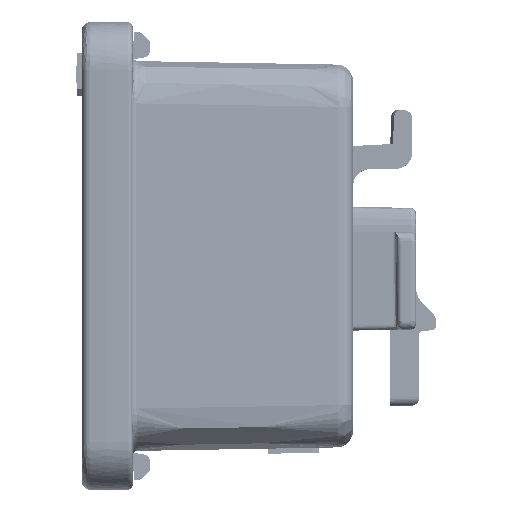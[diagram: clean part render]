
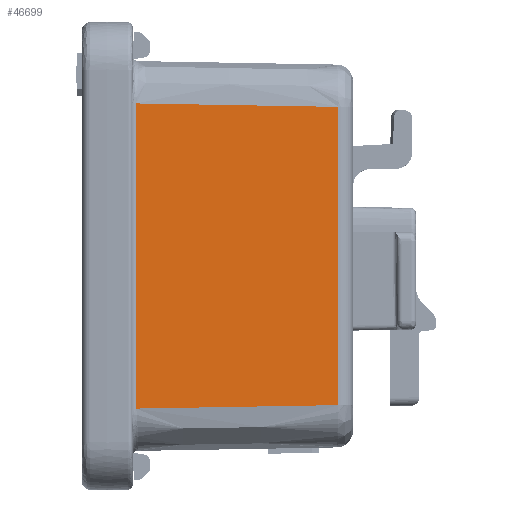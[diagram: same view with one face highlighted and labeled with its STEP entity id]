
A CAD part, left-side view. The second image highlights one B-rep face of the part: STEP entity #46699.
In plain terms, the highlighted cylindrical face has radius 111.316 mm (diameter 222.632 mm), a partial arc.
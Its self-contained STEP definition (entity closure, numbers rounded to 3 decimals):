
#642 = VERTEX_POINT ( 'NONE', #111689 ) ;
#3537 = LINE ( 'NONE', #49449, #103096 ) ;
#6310 = CARTESIAN_POINT ( 'NONE',  ( -53.774, 0.86, 8.794 ) ) ;
#9015 = VECTOR ( 'NONE', #23895, 1000. ) ;
#9839 = CARTESIAN_POINT ( 'NONE',  ( -54.332, 4.811, 8.862 ) ) ;
#16912 = EDGE_CURVE ( 'NONE', #642, #46137, #33267, .T. ) ;
#22197 = CARTESIAN_POINT ( 'NONE',  ( -54.677, 8.791, -8.929 ) ) ;
#23895 = DIRECTION ( 'NONE',  ( 0., 0., 1. ) ) ;
#24444 = FACE_OUTER_BOUND ( 'NONE', #60674, .T. ) ;
#24757 = VERTEX_POINT ( 'NONE', #6310 ) ;
#33267 = LINE ( 'NONE', #95382, #9015 ) ;
#33677 = DIRECTION ( 'NONE',  ( 1., 0., 0. ) ) ;
#38096 = ORIENTED_EDGE ( 'NONE', *, *, #89710, .T. ) ;
#39564 = CARTESIAN_POINT ( 'NONE',  ( -53.774, 0.86, -8.794 ) ) ;
#40533 = CARTESIAN_POINT ( 'NONE',  ( -54.807, 12.778, -8.997 ) ) ;
#46137 = VERTEX_POINT ( 'NONE', #59590 ) ;
#46699 = ADVANCED_FACE ( 'NONE', ( #24444 ), #108375, .T. ) ;
#47307 = B_SPLINE_CURVE_WITH_KNOTS ( 'NONE', 3,
 ( #40533, #22197, #68259, #86501 ),
 .UNSPECIFIED., .F., .F.,
 ( 4, 4 ),
 ( 0., 1. ),
 .UNSPECIFIED. ) ;
#49449 = CARTESIAN_POINT ( 'NONE',  ( -53.774, 0.86, 8.794 ) ) ;
#52334 = CARTESIAN_POINT ( 'NONE',  ( 56.449, 16.419, -8.4 ) ) ;
#53523 = AXIS2_PLACEMENT_3D ( 'NONE', #52334, #87650, #33677 ) ;
#55623 = CARTESIAN_POINT ( 'NONE',  ( -53.774, 0.86, 8.794 ) ) ;
#58181 = DIRECTION ( 'NONE',  ( 0., 0., -1. ) ) ;
#59590 = CARTESIAN_POINT ( 'NONE',  ( -54.807, 12.778, 8.997 ) ) ;
#60674 = EDGE_LOOP ( 'NONE', ( #76735, #100729, #38096, #107639 ) ) ;
#65898 = CARTESIAN_POINT ( 'NONE',  ( -54.677, 8.791, 8.929 ) ) ;
#66676 = CARTESIAN_POINT ( 'NONE',  ( -54.807, 12.778, 8.997 ) ) ;
#68259 = CARTESIAN_POINT ( 'NONE',  ( -54.332, 4.811, -8.862 ) ) ;
#76735 = ORIENTED_EDGE ( 'NONE', *, *, #101940, .T. ) ;
#82761 = EDGE_CURVE ( 'NONE', #24757, #97287, #3537, .T. ) ;
#86501 = CARTESIAN_POINT ( 'NONE',  ( -53.774, 0.86, -8.794 ) ) ;
#87650 = DIRECTION ( 'NONE',  ( 0., 0., 1. ) ) ;
#89710 = EDGE_CURVE ( 'NONE', #642, #97287, #47307, .T. ) ;
#90830 = B_SPLINE_CURVE_WITH_KNOTS ( 'NONE', 3,
 ( #55623, #9839, #65898, #66676 ),
 .UNSPECIFIED., .F., .F.,
 ( 4, 4 ),
 ( 0., 1. ),
 .UNSPECIFIED. ) ;
#95382 = CARTESIAN_POINT ( 'NONE',  ( -54.807, 12.778, -8.997 ) ) ;
#97287 = VERTEX_POINT ( 'NONE', #39564 ) ;
#100729 = ORIENTED_EDGE ( 'NONE', *, *, #16912, .F. ) ;
#101940 = EDGE_CURVE ( 'NONE', #24757, #46137, #90830, .T. ) ;
#103096 = VECTOR ( 'NONE', #58181, 1000. ) ;
#107639 = ORIENTED_EDGE ( 'NONE', *, *, #82761, .F. ) ;
#108375 = CYLINDRICAL_SURFACE ( 'NONE', #53523, 111.316 ) ;
#111689 = CARTESIAN_POINT ( 'NONE',  ( -54.807, 12.778, -8.997 ) ) ;
